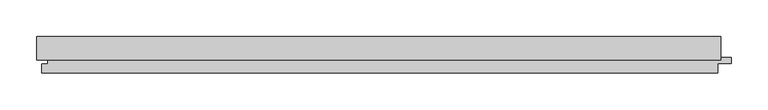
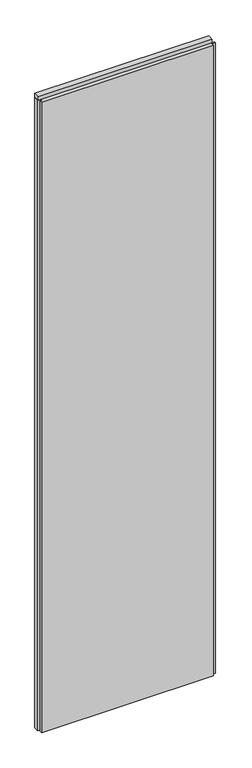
"""IFC4 building model written with IfcOpenShell, lengths in millimetres: plate geometry, Trimo_Qbiss Screen_Normal Panel-VERTICAL : HR - FB-F."""

from ifc_helpers import new_model, si_unit, frame, origin, place, context, project, spatial, polyline, outline, extrude, source, transform, mapped, element, save


def plate_178d45d4(model_context):
    return source(origin(), model_context, "Body", "SweptSolid", [
        extrude(outline(polyline([(-467.0, 93.9), (-467.0, 126.0), (467.0, 126.0), (467.0, 93.9), (-467.0, 93.9)])), frame((0.0, 0.0, 3590.5), z_axis=(0.0, 0.0, 1.0), x_axis=(1.0, 0.0, 0.0)), (0.0, 0.0, 1.0), 19.0),
        extrude(outline(polyline([(463.0, 97.0), (481.5, 97.0), (481.5, 89.0), (463.0, 89.0), (463.0, 76.0), (-460.0, 76.0), (-460.0, 88.0), (-451.5, 88.0), (-451.5, 98.0), (-467.0, 98.0), (-467.0, 126.0), (463.0, 126.0), (463.0, 97.0)])), frame((0.0, 0.0, 12.5), z_axis=(0.0, 0.0, 1.0), x_axis=(1.0, 0.0, 0.0)), (0.0, 0.0, 1.0), 3575.0),
    ])


if __name__ == "__main__":
    model = new_model("IFC4")
    model_context = context("Model", 3, world=origin())
    ifc_project = project(units=[si_unit("LENGTHUNIT", "METRE", prefix="MILLI")], contexts=[model_context])
    site = spatial("IfcSite", under=ifc_project)
    building = spatial("IfcBuilding", under=site)
    placement = place(None, origin())
    plate_shape = plate_178d45d4(model_context)
    element("IfcPlate", 1, ObjectType="Trimo_Qbiss Screen_Normal Panel-VERTICAL : HR - FB-F", at=placement, inside=building, context=model_context, shape_type="MappedRepresentation", body=[
        mapped(plate_shape, transform((0.0, 0.0, 0.0), x_axis=(1.0, 0.0, 0.0), y_axis=(0.0, 1.0, 0.0), z_axis=(0.0, 0.0, 1.0))),
    ])
    save(model, "model.ifc")
